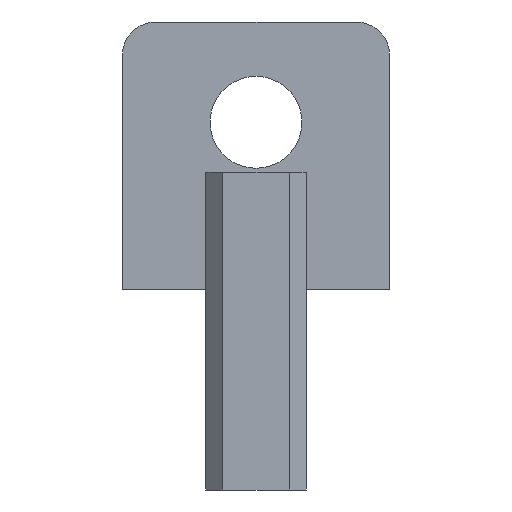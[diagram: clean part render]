
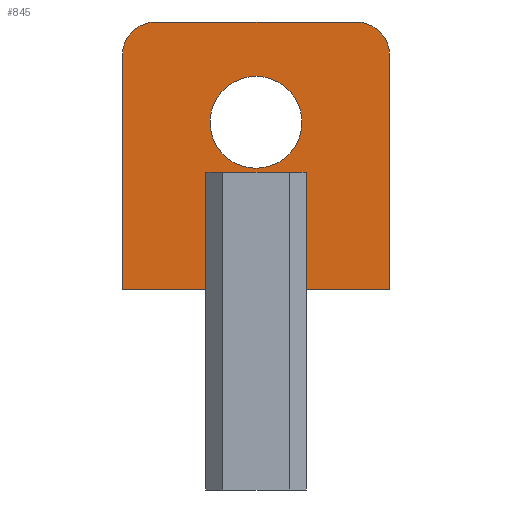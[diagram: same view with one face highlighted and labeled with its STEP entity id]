
A CAD part, front view. The second image highlights one B-rep face of the part: STEP entity #845.
In plain terms, the highlighted planar face has unit normal (0, -1, 0).
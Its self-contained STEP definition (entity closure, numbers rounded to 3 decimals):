
#8 = VERTEX_POINT ( 'NONE', #50 ) ;
#12 = VERTEX_POINT ( 'NONE', #44 ) ;
#13 = VERTEX_POINT ( 'NONE', #25 ) ;
#17 = VERTEX_POINT ( 'NONE', #81 ) ;
#19 = VERTEX_POINT ( 'NONE', #82 ) ;
#20 = VERTEX_POINT ( 'NONE', #46 ) ;
#23 = VERTEX_POINT ( 'NONE', #35 ) ;
#25 = CARTESIAN_POINT ( 'NONE',  ( 8., 0., 14. ) ) ;
#29 = VERTEX_POINT ( 'NONE', #62 ) ;
#30 = VERTEX_POINT ( 'NONE', #84 ) ;
#31 = VERTEX_POINT ( 'NONE', #47 ) ;
#32 = VERTEX_POINT ( 'NONE', #90 ) ;
#35 = CARTESIAN_POINT ( 'NONE',  ( 0., 0., 12.75 ) ) ;
#39 = CARTESIAN_POINT ( 'NONE',  ( 8., 0., 0. ) ) ;
#44 = CARTESIAN_POINT ( 'NONE',  ( -8., 0., 14. ) ) ;
#46 = CARTESIAN_POINT ( 'NONE',  ( 3., 0., 0. ) ) ;
#47 = CARTESIAN_POINT ( 'NONE',  ( 3., 0., 7. ) ) ;
#49 = VERTEX_POINT ( 'NONE', #39 ) ;
#50 = CARTESIAN_POINT ( 'NONE',  ( -3., 0., 0. ) ) ;
#62 = CARTESIAN_POINT ( 'NONE',  ( -3., 0., 7. ) ) ;
#71 = CARTESIAN_POINT ( 'NONE',  ( 3., 0., 7. ) ) ;
#81 = CARTESIAN_POINT ( 'NONE',  ( 6., 0., 16. ) ) ;
#82 = CARTESIAN_POINT ( 'NONE',  ( -8., 0., 0. ) ) ;
#84 = CARTESIAN_POINT ( 'NONE',  ( 0., 0., 7.25 ) ) ;
#90 = CARTESIAN_POINT ( 'NONE',  ( -6., 0., 16. ) ) ;
#93 = DIRECTION ( 'NONE',  ( 0., 0., 1. ) ) ;
#94 = DIRECTION ( 'NONE',  ( -1., 0., 0. ) ) ;
#100 = DIRECTION ( 'NONE',  ( -1., 0., 0. ) ) ;
#107 = CARTESIAN_POINT ( 'NONE',  ( -8., 0., 0. ) ) ;
#115 = CARTESIAN_POINT ( 'NONE',  ( -3., 0., 7. ) ) ;
#120 = CARTESIAN_POINT ( 'NONE',  ( 0., 0., 10. ) ) ;
#129 = DIRECTION ( 'NONE',  ( 0., 1., 0. ) ) ;
#132 = DIRECTION ( 'NONE',  ( 0., 0., 1. ) ) ;
#139 = CARTESIAN_POINT ( 'NONE',  ( -8., 0., 0. ) ) ;
#141 = CARTESIAN_POINT ( 'NONE',  ( -8., 0., 0. ) ) ;
#144 = DIRECTION ( 'NONE',  ( -1., 0., 0. ) ) ;
#175 = DIRECTION ( 'NONE',  ( 0., 0., 1. ) ) ;
#182 = CARTESIAN_POINT ( 'NONE',  ( -3., 0., 7. ) ) ;
#183 = DIRECTION ( 'NONE',  ( 0., 0., -1. ) ) ;
#190 = DIRECTION ( 'NONE',  ( 0., 0., -1. ) ) ;
#195 = DIRECTION ( 'NONE',  ( 0., 1., 0. ) ) ;
#203 = CARTESIAN_POINT ( 'NONE',  ( -6., 0., 14. ) ) ;
#205 = CARTESIAN_POINT ( 'NONE',  ( 8., 0., 0. ) ) ;
#210 = DIRECTION ( 'NONE',  ( 0., -1., 0. ) ) ;
#211 = DIRECTION ( 'NONE',  ( 0., 0., -1. ) ) ;
#213 = CARTESIAN_POINT ( 'NONE',  ( 6., 0., 14. ) ) ;
#215 = DIRECTION ( 'NONE',  ( 0., 0., -1. ) ) ;
#219 = CARTESIAN_POINT ( 'NONE',  ( 0., 0., 10. ) ) ;
#225 = DIRECTION ( 'NONE',  ( 0., -1., 0. ) ) ;
#229 = DIRECTION ( 'NONE',  ( 0., 0., 1. ) ) ;
#273 = DIRECTION ( 'NONE',  ( 1., 0., 0. ) ) ;
#276 = CARTESIAN_POINT ( 'NONE',  ( 8., 0., 16. ) ) ;
#350 = DIRECTION ( 'NONE',  ( 0., 0., -1. ) ) ;
#352 = PLANE ( 'NONE',  #506 ) ;
#354 = CARTESIAN_POINT ( 'NONE',  ( -8., 0., 16. ) ) ;
#384 = DIRECTION ( 'NONE',  ( 0., -1., 0. ) ) ;
#422 = EDGE_CURVE ( 'NONE', #20, #31, #670, .T. ) ;
#428 = EDGE_CURVE ( 'NONE', #23, #30, #758, .T. ) ;
#438 = EDGE_CURVE ( 'NONE', #31, #29, #709, .T. ) ;
#439 = EDGE_CURVE ( 'NONE', #49, #20, #711, .T. ) ;
#449 = EDGE_CURVE ( 'NONE', #29, #8, #691, .T. ) ;
#450 = EDGE_CURVE ( 'NONE', #8, #19, #708, .T. ) ;
#452 = AXIS2_PLACEMENT_3D ( 'NONE', #203, #210, #211 ) ;
#456 = EDGE_CURVE ( 'NONE', #19, #12, #754, .T. ) ;
#471 = EDGE_CURVE ( 'NONE', #30, #23, #797, .T. ) ;
#475 = AXIS2_PLACEMENT_3D ( 'NONE', #120, #129, #93 ) ;
#477 = AXIS2_PLACEMENT_3D ( 'NONE', #219, #195, #229 ) ;
#483 = EDGE_CURVE ( 'NONE', #32, #12, #798, .T. ) ;
#485 = EDGE_CURVE ( 'NONE', #13, #17, #782, .T. ) ;
#487 = EDGE_CURVE ( 'NONE', #13, #49, #788, .T. ) ;
#497 = AXIS2_PLACEMENT_3D ( 'NONE', #213, #225, #190 ) ;
#501 = EDGE_CURVE ( 'NONE', #32, #17, #775, .T. ) ;
#506 = AXIS2_PLACEMENT_3D ( 'NONE', #354, #384, #350 ) ;
#536 = ORIENTED_EDGE ( 'NONE', *, *, #487, .F. ) ;
#544 = EDGE_LOOP ( 'NONE', ( #536, #584, #645, #606, #643, #627, #647, #602, #548, #632 ) ) ;
#548 = ORIENTED_EDGE ( 'NONE', *, *, #422, .F. ) ;
#560 = EDGE_LOOP ( 'NONE', ( #582, #591 ) ) ;
#582 = ORIENTED_EDGE ( 'NONE', *, *, #471, .T. ) ;
#584 = ORIENTED_EDGE ( 'NONE', *, *, #485, .T. ) ;
#591 = ORIENTED_EDGE ( 'NONE', *, *, #428, .T. ) ;
#602 = ORIENTED_EDGE ( 'NONE', *, *, #438, .F. ) ;
#606 = ORIENTED_EDGE ( 'NONE', *, *, #483, .T. ) ;
#627 = ORIENTED_EDGE ( 'NONE', *, *, #450, .F. ) ;
#632 = ORIENTED_EDGE ( 'NONE', *, *, #439, .F. ) ;
#643 = ORIENTED_EDGE ( 'NONE', *, *, #456, .F. ) ;
#645 = ORIENTED_EDGE ( 'NONE', *, *, #501, .F. ) ;
#647 = ORIENTED_EDGE ( 'NONE', *, *, #449, .F. ) ;
#666 = VECTOR ( 'NONE', #132, 1000. ) ;
#670 = LINE ( 'NONE', #71, #666 ) ;
#691 = LINE ( 'NONE', #182, #757 ) ;
#702 = VECTOR ( 'NONE', #175, 1000. ) ;
#708 = LINE ( 'NONE', #141, #750 ) ;
#709 = LINE ( 'NONE', #115, #730 ) ;
#711 = LINE ( 'NONE', #107, #716 ) ;
#716 = VECTOR ( 'NONE', #100, 1000. ) ;
#730 = VECTOR ( 'NONE', #94, 1000. ) ;
#750 = VECTOR ( 'NONE', #144, 1000. ) ;
#754 = LINE ( 'NONE', #139, #702 ) ;
#757 = VECTOR ( 'NONE', #183, 1000. ) ;
#758 = CIRCLE ( 'NONE', #475, 2.75 ) ;
#768 = FACE_OUTER_BOUND ( 'NONE', #544, .T. ) ;
#775 = LINE ( 'NONE', #276, #790 ) ;
#781 = VECTOR ( 'NONE', #215, 1000. ) ;
#782 = CIRCLE ( 'NONE', #497, 2. ) ;
#788 = LINE ( 'NONE', #205, #781 ) ;
#790 = VECTOR ( 'NONE', #273, 1000. ) ;
#797 = CIRCLE ( 'NONE', #477, 2.75 ) ;
#798 = CIRCLE ( 'NONE', #452, 2. ) ;
#830 = FACE_BOUND ( 'NONE', #560, .T. ) ;
#845 = ADVANCED_FACE ( 'NONE', ( #768, #830 ), #352, .T. ) ;
